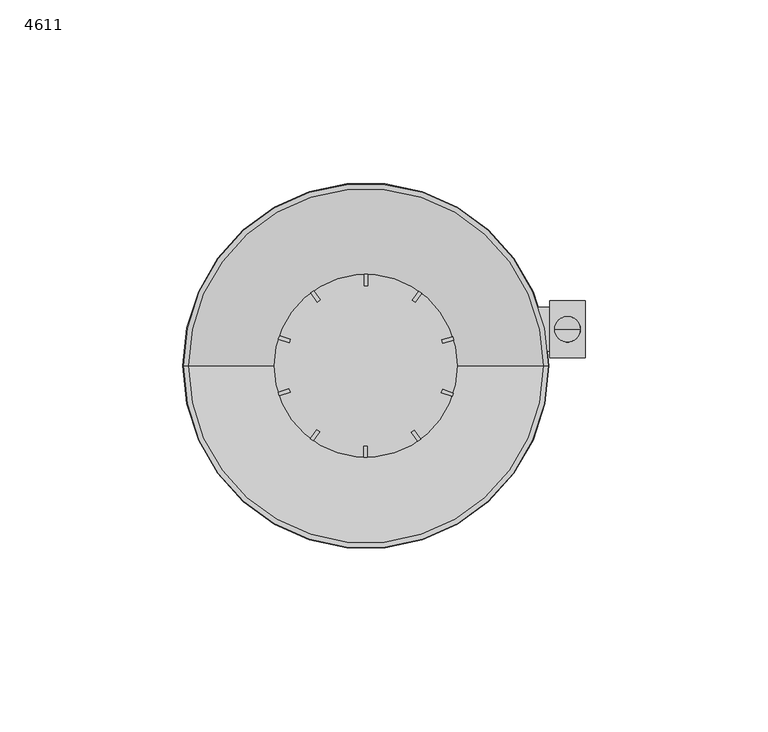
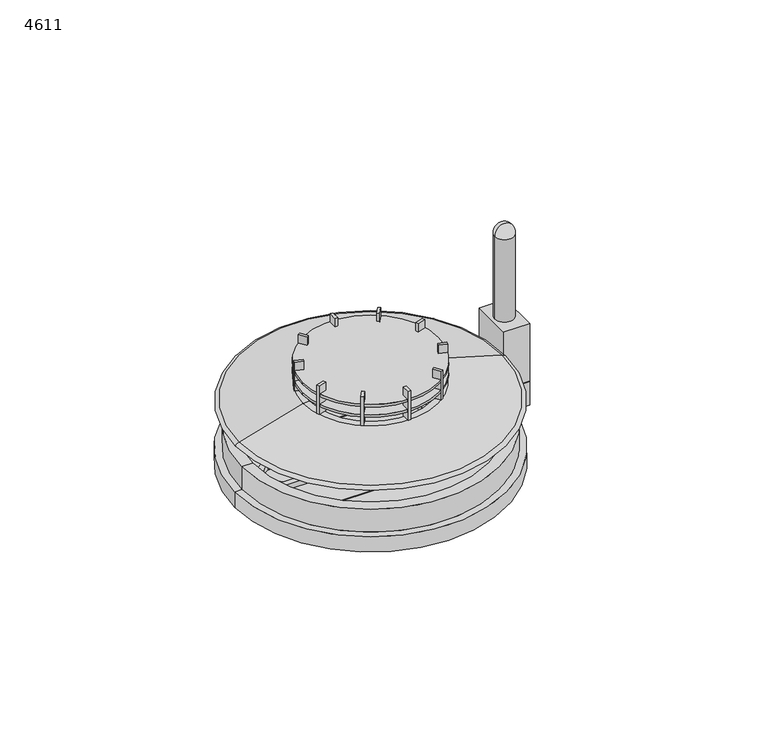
"""IFC4 building model written with IfcOpenShell, lengths in millimetres: alarm geometry, 4611_Wireless Smoke Detector with Siren : 4611."""

from ifc_helpers import new_model, si_unit, point, frame, frame_2d, origin, origin_with_axes, origin_2d, place, context, project, spatial, polyline, circle_curve, ellipse_curve, trimmed, segment, composite_curve, outline, extrude, source, transform, mapped, element, save
from ifc_brep_helpers import plane_surface, cylinder_surface, revolved_surface, advanced_brep


def alarm_4611_f2519d48(model_context):
    return source(origin(), model_context, "Body", "SolidModel", [
        advanced_brep(
        [(50.0, 0.0, 6.0), (-50.0, 0.0, 6.0), (-47.5, 0.0, 6.0), (47.5, 0.0, 6.0), (50.0, 0.0, 0.0), (-50.0, 0.0, 0.0), (41.4686324, 0.0, 0.0), (35.9475927, 19.4607444, 0.0), (-36.5391013, 19.4607444, 0.0), (-41.4628189, 0.0, 0.0), (-36.2084631, -21.5845706, 0.0), (35.5702303, -21.5845706, 0.0), (43.5, 0.0, 6.0), (-43.5, 0.0, 6.0), (-41.4628189, 0.0, 6.0), (-36.5391013, 19.4607444, 6.0), (35.9475927, 19.4607444, 6.0), (41.4686324, 0.0, 6.0), (35.5702303, -21.5845706, 6.0), (-36.2084631, -21.5845706, 6.0), (43.5, 0.0, 15.0), (-43.5, 0.0, 15.0), (47.5, 0.0, 15.0), (-47.5, 0.0, 15.0)],
        [
            (0, 1, circle_curve(frame((0.0, 0.0, 6.0), z_axis=(0.0, 0.0, 1.0), x_axis=(-1.0, 0.0, 0.0)), 50.0)),
            (1, 2),
            (2, 3, circle_curve(frame((0.0, 0.0, 6.0), z_axis=(0.0, 0.0, -1.0), x_axis=(-1.0, 0.0, 0.0)), 47.5)),
            (3, 0),
            (1, 0, circle_curve(frame((0.0, 0.0, 6.0), z_axis=(0.0, 0.0, 1.0), x_axis=(-1.0, 0.0, 0.0)), 50.0)),
            (3, 2, circle_curve(frame((0.0, 0.0, 6.0), z_axis=(0.0, 0.0, -1.0), x_axis=(-1.0, 0.0, 0.0)), 47.5)),
            (0, 4),
            (4, 5, circle_curve(frame((0.0, 0.0, 0.0), z_axis=(0.0, 0.0, 1.0), x_axis=(-1.0, 0.0, 0.0)), 50.0)),
            (5, 1),
            (5, 4, circle_curve(frame((0.0, 0.0, 0.0), z_axis=(0.0, 0.0, 1.0), x_axis=(-1.0, 0.0, 0.0)), 50.0)),
            (4, 6),
            (6, 7, circle_curve(frame((1.7686166, -0.7494131, 0.0), z_axis=(0.0, 0.0, 1.0), x_axis=(1.0, 0.0, 0.0)), 39.7070885)),
            (7, 8),
            (8, 9, circle_curve(frame((2.4198604, -0.7494131, 0.0), z_axis=(0.0, 0.0, 1.0), x_axis=(1.0, 0.0, 0.0)), 43.8890779)),
            (9, 5),
            (9, 10, circle_curve(frame((2.4198604, -0.7494131, 0.0), z_axis=(0.0, 0.0, 1.0), x_axis=(1.0, 0.0, 0.0)), 43.8890779)),
            (10, 11),
            (11, 6, circle_curve(frame((1.7686166, -0.7494131, 0.0), z_axis=(0.0, 0.0, 1.0), x_axis=(1.0, 0.0, 0.0)), 39.7070885)),
            (12, 13, circle_curve(frame((0.0, 0.0, 6.0), z_axis=(0.0, 0.0, 1.0), x_axis=(-1.0, 0.0, 0.0)), 43.5)),
            (13, 14),
            (14, 15, circle_curve(frame((2.4198604, -0.7494131, 6.0), z_axis=(0.0, 0.0, -1.0), x_axis=(1.0, 0.0, 0.0)), 43.8890779)),
            (15, 16),
            (16, 17, circle_curve(frame((1.7686166, -0.7494131, 6.0), z_axis=(0.0, 0.0, -1.0), x_axis=(1.0, 0.0, 0.0)), 39.7070885)),
            (17, 12),
            (13, 12, circle_curve(frame((0.0, 0.0, 6.0), z_axis=(0.0, 0.0, 1.0), x_axis=(-1.0, 0.0, 0.0)), 43.5)),
            (17, 18, circle_curve(frame((1.7686166, -0.7494131, 6.0), z_axis=(0.0, 0.0, -1.0), x_axis=(1.0, 0.0, 0.0)), 39.7070885)),
            (18, 19),
            (19, 14, circle_curve(frame((2.4198604, -0.7494131, 6.0), z_axis=(0.0, 0.0, -1.0), x_axis=(1.0, 0.0, 0.0)), 43.8890779)),
            (12, 20),
            (20, 21, circle_curve(frame((0.0, 0.0, 15.0), z_axis=(0.0, 0.0, 1.0), x_axis=(-1.0, 0.0, 0.0)), 43.5)),
            (21, 13),
            (21, 20, circle_curve(frame((0.0, 0.0, 15.0), z_axis=(0.0, 0.0, 1.0), x_axis=(-1.0, 0.0, 0.0)), 43.5)),
            (20, 22),
            (22, 23, circle_curve(frame((0.0, 0.0, 15.0), z_axis=(0.0, 0.0, 1.0), x_axis=(-1.0, 0.0, 0.0)), 47.5)),
            (23, 21),
            (23, 22, circle_curve(frame((0.0, 0.0, 15.0), z_axis=(0.0, 0.0, 1.0), x_axis=(-1.0, 0.0, 0.0)), 47.5)),
            (2, 23),
            (22, 3),
            (19, 10),
            (8, 15),
            (18, 11),
            (16, 7),
        ],
        [
            plane_surface(frame((0.0, 0.0, 6.0), z_axis=(0.0, 0.0, 1.0), x_axis=(-1.0, 0.0, 0.0))),
            cylinder_surface(frame((0.0, 0.0, -11.8968302), z_axis=(0.0, 0.0, -1.0), x_axis=(-1.0, 0.0, 0.0)), 50.0),
            plane_surface(frame((0.0, 0.0, 0.0), z_axis=(0.0, 0.0, -1.0), x_axis=(-1.0, 0.0, 0.0))),
            revolved_surface(polyline([(-43.5, 0.0, 6.0), (-43.5, 0.0, 15.0)]), (0.0, 0.0, -11.8968302), (0.0, 0.0, -1.0)),
            plane_surface(frame((0.0, 0.0, 15.0), z_axis=(0.0, 0.0, 1.0), x_axis=(-1.0, 0.0, 0.0))),
            cylinder_surface(frame((0.0, 0.0, -11.8968302), z_axis=(0.0, 0.0, -1.0), x_axis=(-1.0, 0.0, 0.0)), 47.5),
            revolved_surface(polyline([(46.308938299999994, -0.7494131, 6.0), (46.308938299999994, -0.7494131, 0.0)]), (2.4198604, -0.7494131, 0.0), (0.0, 0.0, 1.0)),
            plane_surface(frame((-36.2084631, -21.5845706, 6.0), z_axis=(0.0, 1.0, 0.0), x_axis=(0.0, 0.0, -1.0))),
            revolved_surface(polyline([(41.4757051, -0.7494131, 6.0), (41.4757051, -0.7494131, 0.0)]), (1.7686166, -0.7494131, 0.0), (0.0, 0.0, 1.0)),
            plane_surface(frame((35.9475927, 19.4607444, 6.0), z_axis=(0.0, -1.0, 0.0), x_axis=(0.0, 0.0, -1.0))),
        ],
        [
            (0, [[1, 2, 3, 4]]),
            (0, [[-2, 5, -4, 6]]),
            (1, [[-1, 7, 8, 9]]),
            (1, [[-5, -9, 10, -7]]),
            (2, [[-8, 11, 12, 13, 14, 15]]),
            (2, [[-10, -15, 16, 17, 18, -11]]),
            (0, [[19, 20, 21, 22, 23, 24]]),
            (0, [[25, -24, 26, 27, 28, -20]]),
            (3, [[-19, 29, 30, 31]]),
            (3, [[-25, -31, 32, -29]]),
            (4, [[-30, 33, 34, 35]]),
            (4, [[-32, -35, 36, -33]]),
            (5, [[-3, 37, -34, 38]]),
            (5, [[-6, -38, -36, -37]]),
            (6, [[39, -16, -14, 40, -21, -28]]),
            (7, [[-39, -27, 41, -17]]),
            (8, [[-41, -26, -23, 42, -12, -18]]),
            (9, [[-40, -13, -42, -22]]),
        ],
    ),
        extrude(outline(composite_curve([segment(trimmed(circle_curve(frame_2d((1.8201754, -0.6769717)), 39.2070885), [point((35.7127332, 19.0331858))], [point((35.3414694, -21.0121292))], False, "CARTESIAN"), True, "CONTINUOUS"), segment(polyline([(35.3414694, -21.0121292), (-35.8573358, -21.0121292)]), True, "CONTINUOUS"), segment(trimmed(circle_curve(frame_2d((2.4714191, -0.6769717)), 43.3890779), [point((-35.8573358, -21.0121292))], [point((-36.1824523, 19.0331858))], False, "CARTESIAN"), True, "CONTINUOUS"), segment(polyline([(-36.1824523, 19.0331858), (35.7127332, 19.0331858)]), True, "CONTINUOUS")], self_intersect=False)), origin_with_axes(), (0.0, 0.0, 1.0), 6.0),
        extrude(outline(composite_curve([segment(trimmed(circle_curve(frame_2d((-25.3323827, -0.4275586)), 7.7592697), [point((-22.7061129, 6.8737408))], [point((-22.7061129, -7.7288579))], False, "CARTESIAN"), True, "CONTINUOUS"), segment(polyline([(-22.7061129, -7.7288579), (-35.4697878, -7.7288579)]), True, "CONTINUOUS"), segment(trimmed(circle_curve(frame_2d((-32.7503644, -0.4275586)), 7.7912923), [point((-35.4697878, -7.7288579))], [point((-35.4697878, 6.8737408))], False, "CARTESIAN"), True, "CONTINUOUS"), segment(polyline([(-35.4697878, 6.8737408), (-22.7061129, 6.8737408)]), True, "CONTINUOUS")], self_intersect=False), holes=[composite_curve([segment(trimmed(circle_curve(frame_2d((-25.3323827, -0.4275586)), 5.7592697), [point((-23.0817357, -5.7288579))], [point((-23.0817357, 4.8737408))], True, "CARTESIAN"), True, "CONTINUOUS"), segment(polyline([(-23.0817357, 4.8737408), (-35.0817357, 4.8737408)]), True, "CONTINUOUS"), segment(trimmed(circle_curve(frame_2d((-32.7503644, -0.4275586)), 5.7912923), [point((-35.0817357, 4.8737408))], [point((-35.0817357, -5.7288579))], True, "CARTESIAN"), True, "CONTINUOUS"), segment(polyline([(-35.0817357, -5.7288579), (-23.0817357, -5.7288579)]), True, "CONTINUOUS")], self_intersect=False)]), frame((0.0, 0.0, 6.0), z_axis=(0.0, 0.0, 1.0), x_axis=(1.0, 0.0, 0.0)), (0.0, 0.0, 1.0), 2.4224351),
        extrude(outline(composite_curve([segment(trimmed(circle_curve(frame_2d((-0.704898, -1.3069017)), 25.8626248), [point((23.9681531, -9.0603467))], [point((23.3509611, 8.1899928))], True, "CARTESIAN"), True, "CONTINUOUS"), segment(trimmed(circle_curve(frame_2d((30.8976159, 9.0032684)), 7.5903502), [point((23.3509611, 8.1899928))], [point((37.8398485, 12.0722785))], False, "CARTESIAN"), True, "CONTINUOUS"), segment(trimmed(circle_curve(frame_2d((-7.7208028, 0.7305088)), 46.9511308), [point((37.8398485, 12.0722785))], [point((37.1341248, -13.1419153))], False, "CARTESIAN"), True, "CONTINUOUS"), segment(trimmed(circle_curve(frame_2d((30.5497687, -11.1055509)), 6.8920625), [point((37.1341248, -13.1419153))], [point((23.9681531, -9.0603467))], False, "CARTESIAN"), True, "CONTINUOUS")], self_intersect=False), holes=[composite_curve([segment(trimmed(circle_curve(frame_2d((30.5497687, -11.1055509)), 4.8920625), [point((25.8772172, -9.6565729))], [point((35.2234178, -12.550985))], True, "CARTESIAN"), True, "CONTINUOUS"), segment(trimmed(circle_curve(frame_2d((-7.7208028, 0.7305088)), 44.9511308), [point((35.2234178, -12.550985))], [point((35.9431946, 11.4103726))], True, "CARTESIAN"), True, "CONTINUOUS"), segment(trimmed(circle_curve(frame_2d((30.8976159, 9.0032684)), 5.5903502), [point((35.9431946, 11.4103726))], [point((25.3185462, 8.6483087))], True, "CARTESIAN"), True, "CONTINUOUS"), segment(trimmed(circle_curve(frame_2d((-0.704898, -1.3069017)), 27.8626248), [point((25.3185462, 8.6483087))], [point((25.8772172, -9.6565729))], False, "CARTESIAN"), True, "CONTINUOUS")], self_intersect=False)]), frame((0.0, 0.0, 6.0), z_axis=(0.0, 0.0, 1.0), x_axis=(1.0, 0.0, 0.0)), (0.0, 0.0, 1.0), 2.4224351),
        extrude(outline(polyline([(12.056857, 5.5970572), (12.056857, -7.1791316), (-13.7616912, -7.1791316), (-13.7616912, 5.5970572), (12.056857, 5.5970572)]), holes=[polyline([(10.056857, 3.5970572), (-11.7616912, 3.5970572), (-11.7616912, -5.1791316), (10.056857, -5.1791316), (10.056857, 3.5970572)])]), frame((0.0, 0.0, 6.0), z_axis=(0.0, 0.0, 1.0), x_axis=(1.0, 0.0, 0.0)), (0.0, 0.0, 1.0), 2.4224351),
        extrude(outline(composite_curve([segment(trimmed(circle_curve(frame_2d((10.0110751, 9.1184154)), 6.0), [point((4.0110751, 9.1184154))], [point((16.0110751, 9.1184154))], False, "CARTESIAN"), True, "CONTINUOUS"), segment(trimmed(circle_curve(frame_2d((10.0110751, 9.1184154)), 6.0), [point((16.0110751, 9.1184154))], [point((4.0110751, 9.1184154))], False, "CARTESIAN"), True, "CONTINUOUS")], self_intersect=False)), frame((44.6996717, 0.0, 0.0), z_axis=(1.0, 0.0, 0.0), x_axis=(0.0, 1.0, 0.0)), (0.0, 0.0, 1.0), 5.6001581),
        advanced_brep(
        [(58.596898, 10.0110751, 64.0), (51.596898, 10.0110751, 64.0), (55.096898, 10.0110751, 68.0), (55.096898, 10.0110751, 64.0)],
        [
            (0, 1, circle_curve(frame((55.096898, 10.0110751, 64.0), z_axis=(0.0, 0.0, 1.0), x_axis=(-1.0, 0.0, 0.0)), 3.5)),
            (1, 2, circle_curve(frame((55.2486717, 10.0110751, 64.335948), z_axis=(0.0, 1.0, 0.0), x_axis=(1.0, 0.0, 0.0)), 3.667194)),
            (2, 0, circle_curve(frame((54.9451244, 10.0110751, 64.335948), z_axis=(0.0, 1.0, 0.0), x_axis=(-1.0, 0.0, 0.0)), 3.667194)),
            (1, 0, circle_curve(frame((55.096898, 10.0110751, 64.0), z_axis=(0.0, 0.0, 1.0), x_axis=(-1.0, 0.0, 0.0)), 3.5)),
            (3, 1),
            (0, 3),
        ],
        [
            revolved_surface(trimmed(ellipse_curve(frame((55.2486717, 10.0110751, 64.335948), z_axis=(0.0, -1.0, 0.0), x_axis=(1.0, 0.0, 0.0)), 3.667194, 3.667194), [point((55.096898, 10.0110751, 68.0))], [point((51.596898, 10.0110751, 64.0))], True, "CARTESIAN"), (55.096898, 10.0110751, 64.0), (0.0, 0.0, -1.0)),
            plane_surface(frame((55.096898, 10.0110751, 64.0), z_axis=(0.0, 0.0, -1.0), x_axis=(-1.0, 0.0, 0.0))),
        ],
        [
            (0, [[1, 2, 3]]),
            (0, [[4, -3, -2]]),
            (1, [[5, -1, 6]]),
            (1, [[-6, -4, -5]]),
        ],
    ),
        extrude(outline(polyline([(59.8939663, 17.7618258), (59.8939663, 2.2603244), (50.2998298, 2.2603244), (50.2998298, 17.7618258), (59.8939663, 17.7618258)])), origin_with_axes(), (0.0, 0.0, 1.0), 9.1184154),
        extrude(outline(composite_curve([segment(trimmed(circle_curve(frame_2d((55.096898, 10.0110751)), 3.5), [point((51.596898, 10.0110751))], [point((58.596898, 10.0110751))], False, "CARTESIAN"), True, "CONTINUOUS"), segment(trimmed(circle_curve(frame_2d((55.096898, 10.0110751)), 3.5), [point((58.596898, 10.0110751))], [point((51.596898, 10.0110751))], False, "CARTESIAN"), True, "CONTINUOUS")], self_intersect=False)), frame((0.0, 0.0, 31.8106191), z_axis=(0.0, 0.0, 1.0), x_axis=(1.0, 0.0, 0.0)), (0.0, 0.0, 1.0), 32.1893809),
        extrude(outline(polyline([(59.8939663, 17.7618258), (59.8939663, 2.2603244), (50.2998298, 2.2603244), (50.2998298, 17.7618258), (59.8939663, 17.7618258)])), frame((0.0, 0.0, 9.1184154), z_axis=(0.0, 0.0, 1.0), x_axis=(1.0, 0.0, 0.0)), (0.0, 0.0, 1.0), 22.6922037),
        extrude(outline(polyline([(23.9856034, 7.0668824), (21.0641729, 6.1422638), (20.7624298, 7.0956531), (23.6838604, 8.0202717), (23.9856034, 7.0668824)])), frame((0.0, 0.0, 31.8106191), z_axis=(0.0, 0.0, 1.0), x_axis=(1.0, 0.0, 0.0)), (0.0, 0.0, 1.0), 11.1861524),
        extrude(outline(polyline([(14.1723311, -20.6008502), (12.3854378, -18.1115355), (13.197809, -17.5283948), (14.9847023, -20.0177096), (14.1723311, -20.6008502)])), frame((0.0, 0.0, 31.8106191), z_axis=(0.0, 0.0, 1.0), x_axis=(1.0, 0.0, 0.0)), (0.0, 0.0, 1.0), 11.1861524),
        extrude(outline(polyline([(-0.6193507, -24.997328), (-0.6047211, -21.9331051), (0.3952675, -21.9378793), (0.3806379, -25.0021022), (-0.6193507, -24.997328)])), frame((0.0, 0.0, 31.8106191), z_axis=(0.0, 0.0, 1.0), x_axis=(1.0, 0.0, 0.0)), (0.0, 0.0, 1.0), 11.1861524),
        extrude(outline(polyline([(-15.1751564, -19.8737171), (-13.3645755, -17.4015777), (-12.5578094, -17.9924487), (-14.3683903, -20.464588), (-15.1751564, -19.8737171)])), frame((0.0, 0.0, 31.8106191), z_axis=(0.0, 0.0, 1.0), x_axis=(1.0, 0.0, 0.0)), (0.0, 0.0, 1.0), 11.1861524),
        extrude(outline(polyline([(-23.951591, -7.1813153), (-21.0346081, -6.2427596), (-20.7283167, -7.1946974), (-23.6452996, -8.1332531), (-23.951591, -7.1813153)])), frame((0.0, 0.0, 31.8106191), z_axis=(0.0, 0.0, 1.0), x_axis=(1.0, 0.0, 0.0)), (0.0, 0.0, 1.0), 11.1861524),
        extrude(outline(polyline([(-23.6061999, 8.2460491), (-20.6937312, 7.2935777), (-21.0045639, 6.343113), (-23.9170326, 7.2955845), (-23.6061999, 8.2460491)])), frame((0.0, 0.0, 31.8106191), z_axis=(0.0, 0.0, 1.0), x_axis=(1.0, 0.0, 0.0)), (0.0, 0.0, 1.0), 11.1861524),
        extrude(outline(polyline([(-14.2705233, 20.5329531), (-12.4717657, 18.0521978), (-13.2813436, 17.4651853), (-15.0801012, 19.9459406), (-14.2705233, 20.5329531)])), frame((0.0, 0.0, 31.8106191), z_axis=(0.0, 0.0, 1.0), x_axis=(1.0, 0.0, 0.0)), (0.0, 0.0, 1.0), 11.1861524),
        extrude(outline(polyline([(15.2698656, 19.8010405), (13.4475027, 17.3375735), (12.6435668, 17.9322894), (14.4659297, 20.3957564), (15.2698656, 19.8010405)])), frame((0.0, 0.0, 31.8106191), z_axis=(0.0, 0.0, 1.0), x_axis=(1.0, 0.0, 0.0)), (0.0, 0.0, 1.0), 11.1861524),
        extrude(outline(polyline([(0.5, 25.0), (0.5, 21.9357422), (-0.5, 21.9357422), (-0.5, 25.0), (0.5, 25.0)])), frame((0.0, 0.0, 31.8106191), z_axis=(0.0, 0.0, 1.0), x_axis=(1.0, 0.0, 0.0)), (0.0, 0.0, 1.0), 11.1861524),
        extrude(outline(polyline([(23.5665621, -8.3586572), (20.6586739, -7.3922917), (20.9740408, -6.4433219), (23.881929, -7.4096873), (23.5665621, -8.3586572)])), frame((0.0, 0.0, 31.8106191), z_axis=(0.0, 0.0, 1.0), x_axis=(1.0, 0.0, 0.0)), (0.0, 0.0, 1.0), 11.1861524),
        advanced_brep(
        [(48.4364795, 0.0, 24.95), (-48.4364795, 0.0, 24.95), (-25.0, 0.0, 31.8106191), (25.0, 0.0, 31.8106191), (46.0133253, 0.0, 24.95), (-46.0133253, 0.0, 24.95), (22.5768458, 0.0, 31.8106191), (-22.5768458, 0.0, 31.8106191)],
        [
            (0, 1, circle_curve(frame((0.0, 0.0, 24.95), z_axis=(0.0, 0.0, 1.0), x_axis=(-1.0, 0.0, 0.0)), 48.4364795)),
            (1, 2),
            (2, 3, circle_curve(frame((0.0, 0.0, 31.8106191), z_axis=(0.0, 0.0, -1.0), x_axis=(-1.0, 0.0, 0.0)), 25.0)),
            (3, 0),
            (1, 0, circle_curve(frame((0.0, 0.0, 24.95), z_axis=(0.0, 0.0, 1.0), x_axis=(-1.0, 0.0, 0.0)), 48.4364795)),
            (3, 2, circle_curve(frame((0.0, 0.0, 31.8106191), z_axis=(0.0, 0.0, -1.0), x_axis=(-1.0, 0.0, 0.0)), 25.0)),
            (4, 5, circle_curve(frame((0.0, 0.0, 24.95), z_axis=(0.0, 0.0, 1.0), x_axis=(-1.0, 0.0, 0.0)), 46.0133253)),
            (5, 1),
            (0, 4),
            (5, 4, circle_curve(frame((0.0, 0.0, 24.95), z_axis=(0.0, 0.0, 1.0), x_axis=(-1.0, 0.0, 0.0)), 46.0133253)),
            (6, 7, circle_curve(frame((0.0, 0.0, 31.8106191), z_axis=(0.0, 0.0, 1.0), x_axis=(-1.0, 0.0, 0.0)), 22.5768458)),
            (7, 5),
            (4, 6),
            (7, 6, circle_curve(frame((0.0, 0.0, 31.8106191), z_axis=(0.0, 0.0, 1.0), x_axis=(-1.0, 0.0, 0.0)), 22.5768458)),
            (2, 7),
            (6, 3),
        ],
        [
            revolved_surface(polyline([(-25.0, 0.0, 31.8106191), (-48.4364795, 0.0, 24.95)]), (0.0, 0.0, 2615.3196602), (0.0, 0.0, -1.0)),
            plane_surface(frame((0.0, 0.0, 24.95), z_axis=(0.0, 0.0, -1.0), x_axis=(-1.0, 0.0, 0.0))),
            revolved_surface(polyline([(-46.0133253, 0.0, 24.95), (-22.5768458, 0.0, 31.8106191)]), (0.0, 0.0, 2615.3196602), (0.0, 0.0, -1.0)),
            plane_surface(frame((0.0, 0.0, 31.8106191), z_axis=(0.0, 0.0, 1.0), x_axis=(-1.0, 0.0, 0.0))),
        ],
        [
            (0, [[1, 2, 3, 4]]),
            (0, [[5, -4, 6, -2]]),
            (1, [[7, 8, -1, 9]]),
            (1, [[10, -9, -5, -8]]),
            (2, [[11, 12, -7, 13]]),
            (2, [[14, -13, -10, -12]]),
            (3, [[-3, 15, -11, 16]]),
            (3, [[-6, -16, -14, -15]]),
        ],
    ),
        advanced_brep(
        [(25.0, 0.0, 24.961559), (-25.0, 0.0, 24.961559), (-25.0, 0.0, 23.95), (25.0, 0.0, 23.95), (48.4021049, 0.0, 24.961559), (-48.4021049, 0.0, 24.961559), (49.839427, 0.0, 23.95), (-49.839427, 0.0, 23.95)],
        [
            (0, 1, circle_curve(frame((0.0, 0.0, 24.961559), z_axis=(0.0, 0.0, 1.0), x_axis=(-1.0, 0.0, 0.0)), 25.0)),
            (1, 2),
            (2, 3, circle_curve(frame((0.0, 0.0, 23.95), z_axis=(0.0, 0.0, -1.0), x_axis=(-1.0, 0.0, 0.0)), 25.0)),
            (3, 0),
            (1, 0, circle_curve(frame((0.0, 0.0, 24.961559), z_axis=(0.0, 0.0, 1.0), x_axis=(-1.0, 0.0, 0.0)), 25.0)),
            (3, 2, circle_curve(frame((0.0, 0.0, 23.95), z_axis=(0.0, 0.0, -1.0), x_axis=(-1.0, 0.0, 0.0)), 25.0)),
            (4, 5, circle_curve(frame((0.0, 0.0, 24.961559), z_axis=(0.0, 0.0, 1.0), x_axis=(-1.0, 0.0, 0.0)), 48.4021049)),
            (5, 1),
            (0, 4),
            (5, 4, circle_curve(frame((0.0, 0.0, 24.961559), z_axis=(0.0, 0.0, 1.0), x_axis=(-1.0, 0.0, 0.0)), 48.4021049)),
            (6, 7, circle_curve(frame((0.0, 0.0, 23.95), z_axis=(0.0, 0.0, 1.0), x_axis=(-1.0, 0.0, 0.0)), 49.839427)),
            (7, 5, circle_curve(frame((-48.2481671, 0.0, 23.2159056), z_axis=(0.0, 1.0, 0.0), x_axis=(1.0, 0.0, 0.0)), 1.7524276)),
            (4, 6, circle_curve(frame((48.2481671, 0.0, 23.2159056), z_axis=(0.0, 1.0, 0.0), x_axis=(-1.0, 0.0, 0.0)), 1.7524276)),
            (7, 6, circle_curve(frame((0.0, 0.0, 23.95), z_axis=(0.0, 0.0, 1.0), x_axis=(-1.0, 0.0, 0.0)), 49.839427)),
            (2, 7),
            (6, 3),
        ],
        [
            revolved_surface(polyline([(-25.0, 0.0, 23.949999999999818), (-25.0, 0.0, 24.961558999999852)]), (0.0, 0.0, 2615.3196602), (0.0, 0.0, -1.0)),
            plane_surface(frame((0.0, 0.0, 24.961559), z_axis=(0.0, 0.0, 1.0), x_axis=(-1.0, 0.0, 0.0))),
            revolved_surface(trimmed(ellipse_curve(frame((-48.2481671, 0.0, 23.2159056), z_axis=(0.0, -1.0, 0.0), x_axis=(1.0, 0.0, 0.0)), 1.7524276, 1.7524276), [point((-48.4021049, 0.0, 24.961559))], [point((-49.839427, 0.0, 23.95))], True, "CARTESIAN"), (0.0, 0.0, 2615.3196602), (0.0, 0.0, -1.0)),
            plane_surface(frame((0.0, 0.0, 23.95), z_axis=(0.0, 0.0, -1.0), x_axis=(-1.0, 0.0, 0.0))),
        ],
        [
            (0, [[1, 2, 3, 4]]),
            (0, [[5, -4, 6, -2]]),
            (1, [[7, 8, -1, 9]]),
            (1, [[10, -9, -5, -8]]),
            (2, [[11, 12, -7, 13]]),
            (2, [[14, -13, -10, -12]]),
            (3, [[-3, 15, -11, 16]]),
            (3, [[-6, -16, -14, -15]]),
        ],
    ),
        extrude(outline(composite_curve([segment(trimmed(circle_curve(origin_2d(), 25.0), [point((-25.0, 0.0))], [point((25.0, 0.0))], False, "CARTESIAN"), True, "CONTINUOUS"), segment(trimmed(circle_curve(origin_2d(), 25.0), [point((25.0, 0.0))], [point((-25.0, 0.0))], False, "CARTESIAN"), True, "CONTINUOUS")], self_intersect=False)), frame((0.0, 0.0, 35.0956026), z_axis=(0.0, 0.0, 1.0), x_axis=(1.0, 0.0, 0.0)), (0.0, 0.0, 1.0), 0.9585325),
        extrude(outline(composite_curve([segment(trimmed(circle_curve(origin_2d(), 25.0), [point((-25.0, 0.0))], [point((25.0, 0.0))], False, "CARTESIAN"), True, "CONTINUOUS"), segment(trimmed(circle_curve(origin_2d(), 25.0), [point((25.0, 0.0))], [point((-25.0, 0.0))], False, "CARTESIAN"), True, "CONTINUOUS")], self_intersect=False)), frame((0.0, 0.0, 39.0541352), z_axis=(0.0, 0.0, 1.0), x_axis=(1.0, 0.0, 0.0)), (0.0, 0.0, 1.0), 0.9585325),
    ])


if __name__ == "__main__":
    model = new_model("IFC4")
    model_context = context("Model", 3, world=origin())
    ifc_project = project(units=[si_unit("LENGTHUNIT", "METRE", prefix="MILLI")], contexts=[model_context])
    site = spatial("IfcSite", under=ifc_project)
    building = spatial("IfcBuilding", under=site)
    placement = place(None, origin())
    alarm_4611_shape = alarm_4611_f2519d48(model_context)
    element("IfcAlarm", 1, ObjectType="4611_Wireless Smoke Detector with Siren : 4611", at=placement, inside=building, context=model_context, shape_type="MappedRepresentation", body=[
        mapped(alarm_4611_shape, transform((0.0, 0.0, 0.0), x_axis=(1.0, 0.0, 0.0), y_axis=(0.0, 1.0, 0.0), z_axis=(0.0, 0.0, 1.0))),
    ])
    save(model, "model.ifc")
